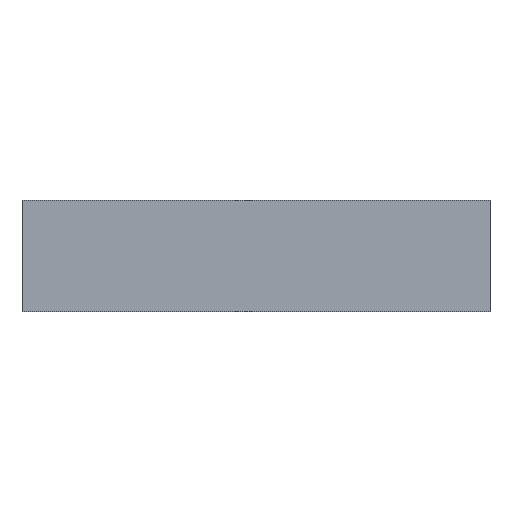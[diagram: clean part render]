
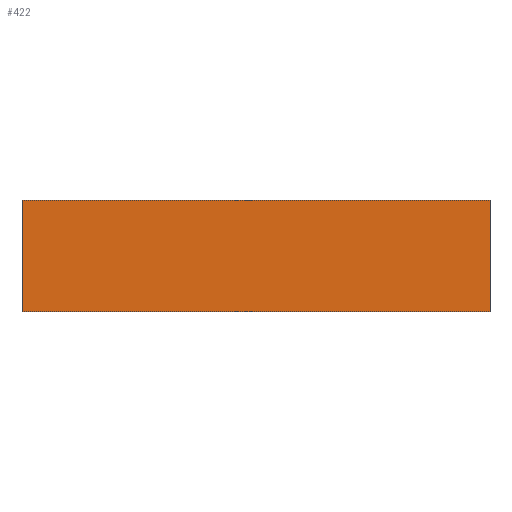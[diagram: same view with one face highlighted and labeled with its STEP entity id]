
A CAD part, front view. The second image highlights one B-rep face of the part: STEP entity #422.
In plain terms, the highlighted planar face has unit normal (0, -1, 0).
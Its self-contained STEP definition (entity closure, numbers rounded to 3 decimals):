
#5 = VECTOR ( 'NONE', #736, 1000. ) ;
#17 = LINE ( 'NONE', #733, #5 ) ;
#36 = VECTOR ( 'NONE', #723, 1000. ) ;
#43 = LINE ( 'NONE', #727, #36 ) ;
#60 = FACE_OUTER_BOUND ( 'NONE', #82, .T. ) ;
#82 = EDGE_LOOP ( 'NONE', ( #166, #167, #237, #238 ) ) ;
#166 = ORIENTED_EDGE ( 'NONE', *, *, #902, .T. ) ;
#167 = ORIENTED_EDGE ( 'NONE', *, *, #873, .F. ) ;
#237 = ORIENTED_EDGE ( 'NONE', *, *, #921, .F. ) ;
#238 = ORIENTED_EDGE ( 'NONE', *, *, #856, .T. ) ;
#319 = LINE ( 'NONE', #753, #320 ) ;
#320 = VECTOR ( 'NONE', #754, 1000. ) ;
#340 = LINE ( 'NONE', #816, #341 ) ;
#341 = VECTOR ( 'NONE', #817, 1000. ) ;
#422 = ADVANCED_FACE ( 'NONE', ( #60 ), #542, .F. ) ;
#489 = VERTEX_POINT ( 'NONE', #594 ) ;
#491 = VERTEX_POINT ( 'NONE', #596 ) ;
#502 = VERTEX_POINT ( 'NONE', #589 ) ;
#504 = VERTEX_POINT ( 'NONE', #591 ) ;
#530 = CARTESIAN_POINT ( 'NONE',  ( -251., 0., 120. ) ) ;
#542 = PLANE ( 'NONE',  #960 ) ;
#545 = DIRECTION ( 'NONE',  ( 0., 1., 0. ) ) ;
#546 = DIRECTION ( 'NONE',  ( -1., 0., 0. ) ) ;
#589 = CARTESIAN_POINT ( 'NONE',  ( -251., 0., 120. ) ) ;
#591 = CARTESIAN_POINT ( 'NONE',  ( 251., 0., 120. ) ) ;
#594 = CARTESIAN_POINT ( 'NONE',  ( -251., 0., 0. ) ) ;
#596 = CARTESIAN_POINT ( 'NONE',  ( 251., 0., 0. ) ) ;
#723 = DIRECTION ( 'NONE',  ( 0., 0., -1. ) ) ;
#727 = CARTESIAN_POINT ( 'NONE',  ( -251., 0., 120. ) ) ;
#733 = CARTESIAN_POINT ( 'NONE',  ( 251., 0., 120. ) ) ;
#736 = DIRECTION ( 'NONE',  ( 0., 0., -1. ) ) ;
#753 = CARTESIAN_POINT ( 'NONE',  ( -251., 0., 0. ) ) ;
#754 = DIRECTION ( 'NONE',  ( 1., 0., 0. ) ) ;
#816 = CARTESIAN_POINT ( 'NONE',  ( -251., 0., 120. ) ) ;
#817 = DIRECTION ( 'NONE',  ( 1., 0., 0. ) ) ;
#856 = EDGE_CURVE ( 'NONE', #502, #489, #43, .T. ) ;
#873 = EDGE_CURVE ( 'NONE', #504, #491, #17, .T. ) ;
#902 = EDGE_CURVE ( 'NONE', #489, #491, #319, .T. ) ;
#921 = EDGE_CURVE ( 'NONE', #502, #504, #340, .T. ) ;
#960 = AXIS2_PLACEMENT_3D ( 'NONE', #530, #545, #546 ) ;
